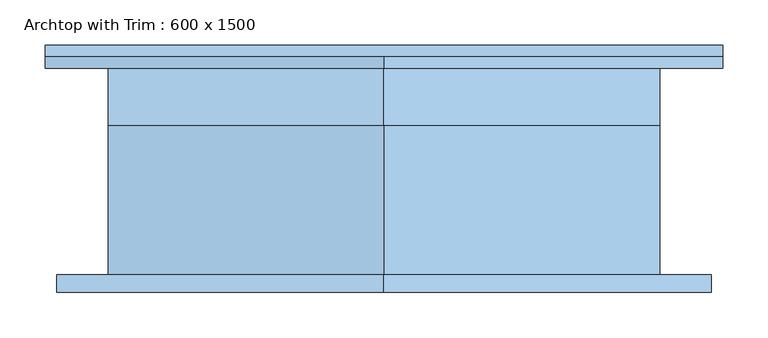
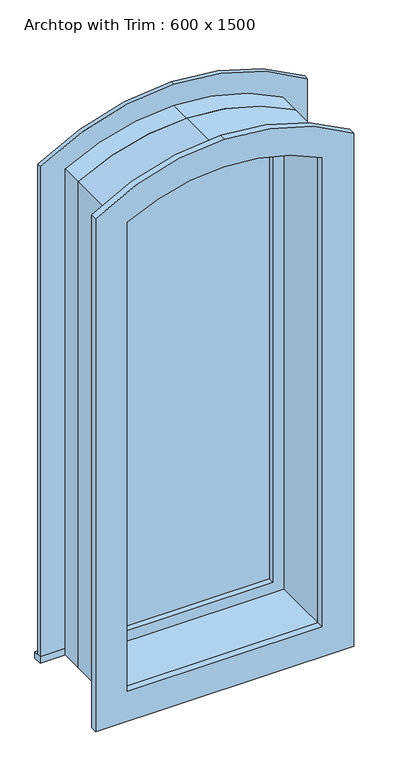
"""IFC4 building model written with IfcOpenShell, lengths in millimetres: window geometry, Archtop with Trim : 600 x 1500."""

from ifc_helpers import new_model, si_unit, point, frame, frame_2d, origin, place, context, project, spatial, polyline, circle_curve, trimmed, segment, composite_curve, outline, extrude, source, transform, mapped, element, save


def archtop_with_trim_600_x_1500_7229f101(model_context):
    return source(origin(), model_context, "Body", "SweptSolid", [
        extrude(outline(composite_curve([segment(polyline([(641.35, 297.730298), (2040.8135447, 297.730298)]), True, "CONTINUOUS"), segment(trimmed(circle_curve(frame_2d((1524.0, 11.980298)), 590.55), [point((2040.8135447, 297.730298))], [point((2114.55, 11.980298))], False, "CARTESIAN"), True, "CONTINUOUS"), segment(trimmed(circle_curve(frame_2d((1524.0, 11.980298)), 590.55), [point((2114.55, 11.980298))], [point((2040.8135448, -273.7697019))], False, "CARTESIAN"), True, "CONTINUOUS"), segment(polyline([(2040.8135448, -273.7697019), (641.35, -273.7697019), (641.35, 297.730298)]), True, "CONTINUOUS")], self_intersect=False), holes=[composite_curve([segment(polyline([(673.1, 253.280298), (673.1, -229.319702), (2017.4342262, -229.319702)]), True, "CONTINUOUS"), segment(trimmed(circle_curve(frame_2d((1524.0, 11.980298)), 549.275), [point((2017.4342262, -229.319702))], [point((2073.275, 11.980298))], True, "CARTESIAN"), True, "CONTINUOUS"), segment(trimmed(circle_curve(frame_2d((1524.0, 11.980298)), 549.275), [point((2073.275, 11.980298))], [point((2017.4342262, 253.280298))], True, "CARTESIAN"), True, "CONTINUOUS"), segment(polyline([(2017.4342262, 253.280298), (673.1, 253.280298)]), True, "CONTINUOUS")], self_intersect=False)]), frame((0.0, 50.8, 0.0), z_axis=(0.0, 1.0, 0.0), x_axis=(0.0, 0.0, 1.0)), (0.0, 0.0, 1.0), 44.45),
        extrude(outline(polyline([(-362.6697019, 139.7), (386.630298, 139.7), (386.630298, 114.3), (-362.6697019, 114.3), (-362.6697019, 139.7)])), frame((0.0, 0.0, 609.6), z_axis=(0.0, 0.0, 1.0), x_axis=(1.0, 0.0, 0.0)), (0.0, 0.0, 1.0), 19.05),
        extrude(outline(composite_curve([segment(polyline([(628.65, 297.7302979), (628.65, 386.630298), (2081.9420964, 386.630298)]), True, "CONTINUOUS"), segment(trimmed(circle_curve(frame_2d((1524.0, 11.980298)), 672.0580373), [point((2081.9420964, 386.630298))], [point((2196.0580373, 11.980298))], False, "CARTESIAN"), True, "CONTINUOUS"), segment(trimmed(circle_curve(frame_2d((1524.0, 11.980298)), 672.0580373), [point((2196.0580373, 11.980298))], [point((2081.9420965, -362.6697019))], False, "CARTESIAN"), True, "CONTINUOUS"), segment(polyline([(2081.9420965, -362.6697019), (628.65, -362.6697019), (628.65, -273.7697019), (2040.8135447, -273.7697019)]), True, "CONTINUOUS"), segment(trimmed(circle_curve(frame_2d((1524.0, 11.980298)), 590.55), [point((2040.8135447, -273.7697019))], [point((2114.55, 11.980298))], True, "CARTESIAN"), True, "CONTINUOUS"), segment(trimmed(circle_curve(frame_2d((1524.0, 11.980298)), 590.55), [point((2114.55, 11.980298))], [point((2040.8135448, 297.7302979))], True, "CARTESIAN"), True, "CONTINUOUS"), segment(polyline([(2040.8135448, 297.7302979), (628.65, 297.7302979)]), True, "CONTINUOUS")], self_intersect=False)), frame((0.0, 114.3, 0.0), z_axis=(0.0, 1.0, 0.0), x_axis=(0.0, 0.0, 1.0)), (0.0, 0.0, 1.0), 12.7),
        extrude(outline(composite_curve([segment(polyline([(552.45, -349.969702), (552.45, 373.9302979), (2074.7014713, 373.9302979)]), True, "CONTINUOUS"), segment(trimmed(circle_curve(frame_2d((1524.0, 11.980298)), 658.9991752), [point((2074.7014713, 373.9302979))], [point((2182.9991752, 11.980298))], False, "CARTESIAN"), True, "CONTINUOUS"), segment(trimmed(circle_curve(frame_2d((1524.0, 11.980298)), 658.9991752), [point((2182.9991752, 11.980298))], [point((2074.7014713, -349.969702))], False, "CARTESIAN"), True, "CONTINUOUS"), segment(polyline([(2074.7014713, -349.969702), (552.45, -349.969702)]), True, "CONTINUOUS")], self_intersect=False), holes=[composite_curve([segment(polyline([(641.35, -261.0697027), (2033.2684161, -261.0697027)]), True, "CONTINUOUS"), segment(trimmed(circle_curve(frame_2d((1524.0, 11.980298)), 577.85), [point((2033.2684161, -261.0697027))], [point((2101.85, 11.980298))], True, "CARTESIAN"), True, "CONTINUOUS"), segment(trimmed(circle_curve(frame_2d((1524.0000002, 11.980298)), 577.8499998), [point((2101.85, 11.980298))], [point((2033.2684161, 285.0302987))], True, "CARTESIAN"), True, "CONTINUOUS"), segment(polyline([(2033.2684161, 285.0302987), (641.35, 285.0302987), (641.35, -261.0697027)]), True, "CONTINUOUS")], self_intersect=False)]), frame((0.0, -133.35, 0.0), z_axis=(0.0, 1.0, 0.0), x_axis=(0.0, 0.0, 1.0)), (0.0, 0.0, 1.0), 19.05),
        extrude(outline(composite_curve([segment(polyline([(673.1, -229.3197017), (673.1, 253.2802981), (2017.7281367, 253.2802981)]), True, "CONTINUOUS"), segment(trimmed(circle_curve(frame_2d((1524.0, 11.9802983)), 549.5390458), [point((2017.7281367, 253.2802981))], [point((2073.5390458, 11.9802983))], False, "CARTESIAN"), True, "CONTINUOUS"), segment(trimmed(circle_curve(frame_2d((1524.0, 11.9802983)), 549.5390458), [point((2073.5390458, 11.9802983))], [point((2017.7281366, -229.3197017))], False, "CARTESIAN"), True, "CONTINUOUS"), segment(polyline([(2017.7281366, -229.3197017), (673.1, -229.3197017)]), True, "CONTINUOUS")], self_intersect=False)), frame((0.0, 66.675, 0.0), z_axis=(0.0, 1.0, 0.0), x_axis=(0.0, 0.0, 1.0)), (0.0, 0.0, 1.0), 12.7),
        extrude(outline(composite_curve([segment(polyline([(609.6, 316.780298), (2051.9290861, 316.780298)]), True, "CONTINUOUS"), segment(trimmed(circle_curve(frame_2d((1524.0, 11.980298)), 609.6), [point((2051.9290861, 316.780298))], [point((2133.6, 11.980298))], False, "CARTESIAN"), True, "CONTINUOUS"), segment(trimmed(circle_curve(frame_2d((1524.0, 11.980298)), 609.6), [point((2133.6, 11.980298))], [point((2051.9290861, -292.819702))], False, "CARTESIAN"), True, "CONTINUOUS"), segment(polyline([(2051.9290861, -292.819702), (609.6, -292.819702), (609.6, 316.780298)]), True, "CONTINUOUS")], self_intersect=False), holes=[composite_curve([segment(polyline([(641.35, 285.0302987), (641.35, -261.069702), (2036.8825062, -261.069702)]), True, "CONTINUOUS"), segment(trimmed(circle_curve(frame_2d((1524.0, 11.980298)), 581.0376646), [point((2036.8825062, -261.069702))], [point((2105.0376646, 11.980298))], True, "CARTESIAN"), True, "CONTINUOUS"), segment(trimmed(circle_curve(frame_2d((1524.0, 11.980298)), 581.0376646), [point((2105.0376646, 11.980298))], [point((2036.8825058, 285.0302987))], True, "CARTESIAN"), True, "CONTINUOUS"), segment(polyline([(2036.8825058, 285.0302987), (641.35, 285.0302987)]), True, "CONTINUOUS")], self_intersect=False)]), frame((0.0, -114.3, 0.0), z_axis=(0.0, 1.0, 0.0), x_axis=(0.0, 0.0, 1.0)), (0.0, 0.0, 1.0), 165.1),
        extrude(outline(composite_curve([segment(polyline([(609.6, -292.819702), (609.6, 316.780298), (2051.9290861, 316.780298)]), True, "CONTINUOUS"), segment(trimmed(circle_curve(frame_2d((1524.0, 11.980298)), 609.6), [point((2051.9290861, 316.780298))], [point((2133.6, 11.980298))], False, "CARTESIAN"), True, "CONTINUOUS"), segment(trimmed(circle_curve(frame_2d((1524.0, 11.980298)), 609.6), [point((2133.6, 11.980298))], [point((2051.9290861, -292.819702))], False, "CARTESIAN"), True, "CONTINUOUS"), segment(polyline([(2051.9290861, -292.819702), (609.6, -292.819702)]), True, "CONTINUOUS")], self_intersect=False), holes=[composite_curve([segment(polyline([(628.65, -273.7697019), (2042.9358634, -273.7697019)]), True, "CONTINUOUS"), segment(trimmed(circle_curve(frame_2d((1524.0, 11.980298)), 592.4082147), [point((2042.9358634, -273.7697019))], [point((2116.4082147, 11.980298))], True, "CARTESIAN"), True, "CONTINUOUS"), segment(trimmed(circle_curve(frame_2d((1524.0, 11.980298)), 592.4082147), [point((2116.4082147, 11.980298))], [point((2042.9358634, 297.730298))], True, "CARTESIAN"), True, "CONTINUOUS"), segment(polyline([(2042.9358634, 297.730298), (628.65, 297.730298), (628.65, -273.7697019)]), True, "CONTINUOUS")], self_intersect=False)]), frame((0.0, 50.8, 0.0), z_axis=(0.0, 1.0, 0.0), x_axis=(0.0, 0.0, 1.0)), (0.0, 0.0, 1.0), 63.5),
    ])


if __name__ == "__main__":
    model = new_model("IFC4")
    model_context = context("Model", 3, world=origin())
    ifc_project = project(units=[si_unit("LENGTHUNIT", "METRE", prefix="MILLI")], contexts=[model_context])
    site = spatial("IfcSite", under=ifc_project)
    building = spatial("IfcBuilding", under=site)
    placement = place(None, origin())
    archtop_with_trim_600_x_1500_shape = archtop_with_trim_600_x_1500_7229f101(model_context)
    element("IfcWindow", 1, ObjectType="Archtop with Trim : 600 x 1500", at=placement, inside=building, context=model_context, shape_type="MappedRepresentation", body=[
        mapped(archtop_with_trim_600_x_1500_shape, transform((0.0, 0.0, 0.0), x_axis=(1.0, 0.0, 0.0), y_axis=(0.0, 1.0, 0.0), z_axis=(0.0, 0.0, 1.0))),
    ])
    save(model, "model.ifc")
